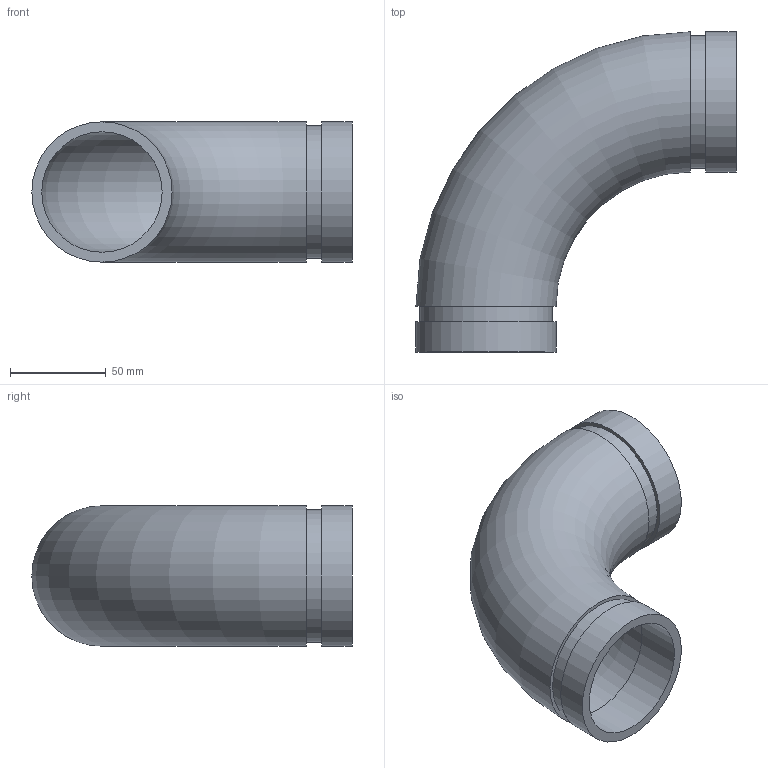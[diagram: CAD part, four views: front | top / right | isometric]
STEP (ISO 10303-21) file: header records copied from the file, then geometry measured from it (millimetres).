
FILE_DESCRIPTION(/* description */ ('VIC SS ELBOW 90 DEG LR No 410DX (OGS)'),/* implementation_level */ '2;1');
FILE_NAME(/* name */ 'C:\Files for Export\SS Duplex\STEP\Victaulic_SS-OGS_Elb 90 Deg LR_No 410DX (OGS)\Victaulic_SS-OGS_Elb 90 Deg LR_No 410DX (OGS)_2.5 (65).stp',/* time_stamp */ '2024-08-28T10:36:27+02:00',/* author */ ('CORINNE GRAY'),/* organization */ ('Victaulic'),/* preprocessor_version */ 'ST-DEVELOPER v18.1',/* originating_system */ 'Autodesk Inventor 2020',/* authorisation */ '');
FILE_SCHEMA (('AUTOMOTIVE_DESIGN { 1 0 10303 214 3 1 1 }'));
Length unit declared in the file: inch
Products named in the file (1): 410DX-02.5
Bounding box: 166.81 x 166.81 x 73.03 mm (x, y, z)
Volume: 229274.9 mm3; surface area: 95401.7 mm2
Topology: 1 solids, 1 shells, 14 faces, 30 edges, 22 vertices
Faces by surface type: cylinder 6, plane 6, torus 2
Full cylindrical faces by diameter (mm): 62.713 x2, 69.088 x2, 73.025 x2
Entity records: 467 total; most frequent: DIRECTION 84, CARTESIAN_POINT 67, ORIENTED_EDGE 60, AXIS2_PLACEMENT_3D 39, EDGE_CURVE 30, CIRCLE 24, VERTEX_POINT 22, EDGE_LOOP 20
